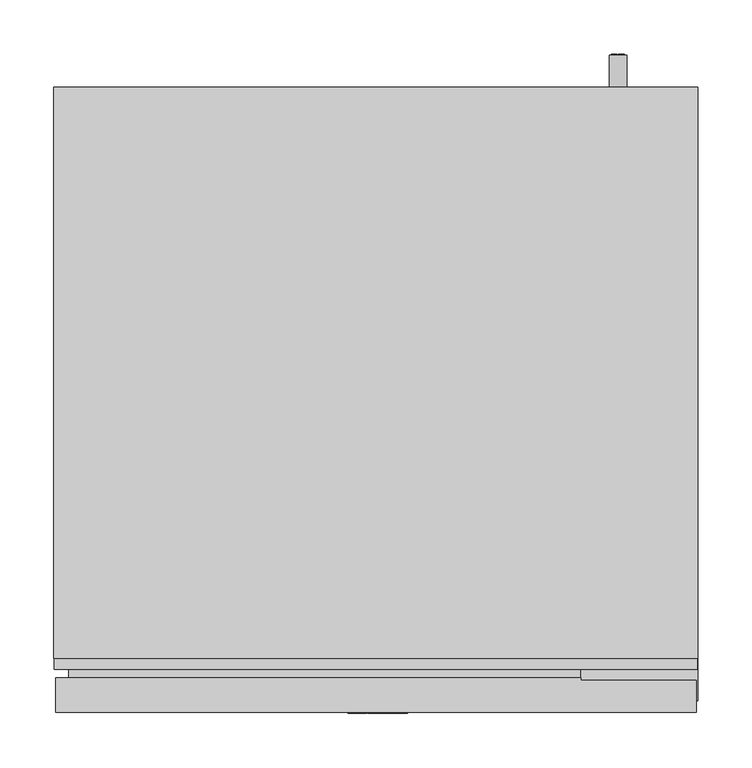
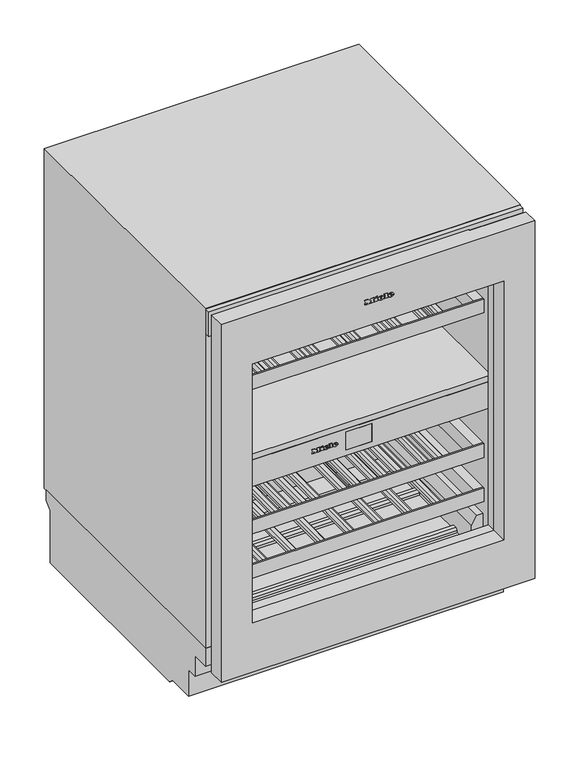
"""IFC4 building model written with IfcOpenShell, lengths in millimetres: proxy geometry, 12519560_EU1_KWTUS7096E_OBSW : 39709610_EU1_12519560_KWTUS7096E_OBSW."""

from ifc_helpers import new_model, si_unit, point, frame, frame_2d, origin, origin_with_axes, place, context, project, spatial, polyline, circle_curve, ellipse_curve, trimmed, segment, composite_curve, outline, extrude, faceted_brep, source, transform, mapped, element, save
from ifc_brep_helpers import plane_surface, cylinder_surface, revolved_surface, extruded_surface, advanced_brep


def specialty_equipment_0739b71f(model_context):
    return source(origin(), model_context, "Body", "SolidModel", [
        extrude(outline(polyline([(768.991, -25.542), (768.991, -24.453), (762.97, -24.453), (762.97, -25.542), (761.458, -25.542), (761.458, -21.582), (762.97, -21.582), (762.97, -22.662), (766.7921247, -22.662), (761.458, -18.639), (766.8982223, -14.598), (762.97, -14.598), (762.97, -15.705), (761.458, -15.705), (761.458, -8.523), (762.97, -8.523), (762.97, -9.666), (768.991, -9.666), (768.991, -8.523), (770.458, -8.523), (770.458, -14.004), (767.083, -16.632), (770.458, -19.269), (770.458, -25.542), (768.991, -25.542)])), frame((0.0, -1.0, 0.0), z_axis=(0.0, 1.0, 0.0), x_axis=(0.0, 0.0, 1.0)), (0.0, 0.0, 1.0), 1.0),
        extrude(outline(polyline([(768.991, 10.98), (768.991, 12.06), (762.97, 12.06), (762.97, 10.98), (761.458, 10.98), (761.458, 18.279), (762.97, 18.279), (762.97, 17.172), (770.458, 17.172), (770.458, 10.98), (768.991, 10.98)])), frame((0.0, -1.0, 0.0), z_axis=(0.0, 1.0, 0.0), x_axis=(0.0, 0.0, 1.0)), (0.0, 0.0, 1.0), 1.0),
        extrude(outline(polyline([(769.927, -5.382), (768.469, -4.698), (769.891, -1.647), (771.349, -2.322), (769.927, -5.382)])), frame((0.0, -1.0, 0.0), z_axis=(0.0, 1.0, 0.0), x_axis=(0.0, 0.0, 1.0)), (0.0, 0.0, 1.0), 1.0),
        extrude(outline(polyline([(768.271, -7.605), (766.66, -7.605), (766.66, -6.534), (762.97, -6.534), (762.97, -7.605), (761.458, -7.605), (761.458, -0.504), (762.97, -0.504), (762.97, -1.548), (768.271, -1.548), (768.271, -7.605)])), frame((0.0, -1.0, 0.0), z_axis=(0.0, 1.0, 0.0), x_axis=(0.0, 0.0, 1.0)), (0.0, 0.0, 1.0), 1.0),
        advanced_brep(
        [(4.455, -1.0, 763.591), (4.455, -1.0, 764.5), (10.476, -1.0, 764.5), (0.0, -1.0, 764.5), (2.475, -1.0, 761.458), (10.323, -1.0, 763.591), (7.605, -1.0, 763.591), (5.463, -1.0, 762.583), (4.455, -1.0, 765.652), (4.455, -1.0, 766.633), (5.994, -1.0, 766.633), (5.994, -1.0, 765.652), (4.455, 0.0, 763.591), (5.463, 0.0, 762.583), (7.605, 0.0, 763.591), (10.323, 0.0, 763.591), (2.475, 0.0, 761.458), (0.0, 0.0, 764.5), (10.476, 0.0, 764.5), (4.455, 0.0, 764.5), (4.455, 0.0, 765.652), (5.994, 0.0, 765.652), (5.994, 0.0, 766.633), (4.455, 0.0, 766.633)],
        [
            (0, 1),
            (1, 2),
            (2, 3, ellipse_curve(frame((5.238, -1.0, 764.5), z_axis=(0.0, -1.0, 0.0), x_axis=(-1.0, 0.0, 0.0)), 5.238, 4.329)),
            (3, 4, circle_curve(frame((3.4830491, -1.0, 764.806), z_axis=(0.0, -1.0, 0.0), x_axis=(0.0, 0.0, -1.0)), 3.4964649)),
            (4, 5, circle_curve(frame((5.1331428, -1.0, 767.182), z_axis=(0.0, -1.0, 0.0), x_axis=(0.0, 0.0, -1.0)), 6.3110933)),
            (5, 6),
            (6, 7, circle_curve(frame((5.9029412, -1.0, 764.428), z_axis=(0.0, 1.0, 0.0), x_axis=(0.0, 0.0, -1.0)), 1.896727)),
            (7, 0, circle_curve(frame((5.463, -1.0, 763.591), z_axis=(0.0, 1.0, 0.0), x_axis=(0.0, 0.0, -1.0)), 1.008)),
            (8, 9),
            (9, 10, circle_curve(frame((5.2245, -1.0, 766.633), z_axis=(0.0, 1.0, 0.0), x_axis=(0.0, 0.0, -1.0)), 0.7695)),
            (10, 11),
            (11, 8),
            (12, 13, circle_curve(frame((5.463, 0.0, 763.591), z_axis=(0.0, -1.0, 0.0), x_axis=(0.0, 0.0, -1.0)), 1.008)),
            (13, 14, circle_curve(frame((5.9029412, 0.0, 764.428), z_axis=(0.0, -1.0, 0.0), x_axis=(0.0, 0.0, -1.0)), 1.896727)),
            (14, 15),
            (15, 16, circle_curve(frame((5.1331428, 0.0, 767.182), z_axis=(0.0, 1.0, 0.0), x_axis=(0.0, 0.0, -1.0)), 6.3110933)),
            (16, 17, circle_curve(frame((3.4830491, 0.0, 764.806), z_axis=(0.0, 1.0, 0.0), x_axis=(0.0, 0.0, -1.0)), 3.4964649)),
            (17, 18, ellipse_curve(frame((5.238, 0.0, 764.5), z_axis=(0.0, 1.0, 0.0), x_axis=(-1.0, 0.0, 0.0)), 5.238, 4.329)),
            (18, 19),
            (19, 12),
            (20, 21),
            (21, 22),
            (22, 23, circle_curve(frame((5.2245, 0.0, 766.633), z_axis=(0.0, -1.0, 0.0), x_axis=(0.0, 0.0, -1.0)), 0.7695)),
            (23, 20),
            (0, 12),
            (19, 1),
            (18, 2),
            (5, 15),
            (14, 6),
            (17, 3),
            (13, 7),
            (16, 4),
            (8, 20),
            (23, 9),
            (22, 10),
            (21, 11),
        ],
        [
            plane_surface(frame((4.455, -1.0, 764.5), z_axis=(0.0, -1.0, 0.0), x_axis=(0.0, 0.0, 1.0))),
            plane_surface(frame((4.455, 0.0, 764.5), z_axis=(0.0, 1.0, 0.0), x_axis=(0.0, 0.0, -1.0))),
            plane_surface(frame((4.455, -1.0, 763.591), z_axis=(1.0, 0.0, 0.0), x_axis=(0.0, 1.0, 0.0))),
            plane_surface(frame((4.455, -1.0, 764.5), z_axis=(0.0, 0.0, -1.0), x_axis=(0.0, 1.0, 0.0))),
            plane_surface(frame((10.323, -1.0, 763.591), z_axis=(0.0, 0.0, 1.0), x_axis=(0.0, 1.0, 0.0))),
            extruded_surface(trimmed(ellipse_curve(frame((5.238, 1.0, 764.5), z_axis=(0.0, -1.0, 0.0), x_axis=(-1.0, 0.0, 0.0)), 5.238, 4.329), [point((10.476, 1.0, 764.5))], [point((0.0, 1.0, 764.5))], True, "CARTESIAN"), (0.0, -1.0, 0.0), 1.0),
            revolved_surface(polyline([(5.9029412, 0.0, 762.5312729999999), (5.9029412, -1.0, 762.5312729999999)]), (5.9029412, 0.0, 764.428), (0.0, 1.0, 0.0)),
            revolved_surface(polyline([(5.463, 0.0, 762.583), (5.463, -1.0, 762.583)]), (5.463, 0.0, 763.591), (0.0, 1.0, 0.0)),
            cylinder_surface(frame((3.4830491, 0.0, 764.806), z_axis=(0.0, -1.0, 0.0), x_axis=(0.0, 0.0, -1.0)), 3.4964649),
            cylinder_surface(frame((5.1331428, 0.0, 767.182), z_axis=(0.0, -1.0, 0.0), x_axis=(0.0, 0.0, -1.0)), 6.3110933),
            plane_surface(frame((4.455, -1.0, 765.652), z_axis=(1.0, 0.0, 0.0), x_axis=(0.0, 1.0, 0.0))),
            revolved_surface(polyline([(5.2245, 0.0, 765.8635), (5.2245, -1.0, 765.8635)]), (5.2245, 0.0, 766.633), (0.0, 1.0, 0.0)),
            plane_surface(frame((5.994, -1.0, 766.633), z_axis=(-1.0, 0.0, 0.0), x_axis=(0.0, 1.0, 0.0))),
            plane_surface(frame((5.994, -1.0, 765.652), z_axis=(0.0, 0.0, 1.0), x_axis=(0.0, 1.0, 0.0))),
        ],
        [
            (0, [[1, 2, 3, 4, 5, 6, 7, 8], [9, 10, 11, 12]]),
            (1, [[13, 14, 15, 16, 17, 18, 19, 20], [21, 22, 23, 24]]),
            (2, [[-1, 25, -20, 26]]),
            (3, [[-2, -26, -19, 27]]),
            (4, [[-6, 28, -15, 29]]),
            (5, [[-3, -27, -18, 30]]),
            (6, [[-7, -29, -14, 31]]),
            (7, [[-8, -31, -13, -25]]),
            (8, [[-4, -30, -17, 32]]),
            (9, [[-5, -32, -16, -28]]),
            (10, [[-9, 33, -24, 34]]),
            (11, [[-10, -34, -23, 35]]),
            (12, [[-11, -35, -22, 36]]),
            (13, [[-12, -36, -21, -33]]),
        ],
    ),
        advanced_brep(
        [(23.238, -1.0, 763.591), (23.238, -1.0, 764.5), (29.259, -1.0, 764.5), (18.783, -1.0, 764.5), (21.258, -1.0, 761.458), (29.106, -1.0, 763.591), (26.388, -1.0, 763.591), (24.246, -1.0, 762.583), (23.238, -1.0, 765.652), (23.238, -1.0, 766.633), (24.777, -1.0, 766.633), (24.777, -1.0, 765.652), (23.238, 0.0, 763.591), (24.246, 0.0, 762.583), (26.388, 0.0, 763.591), (29.106, 0.0, 763.591), (21.258, 0.0, 761.458), (18.783, 0.0, 764.5), (29.259, 0.0, 764.5), (23.238, 0.0, 764.5), (23.238, 0.0, 765.652), (24.777, 0.0, 765.652), (24.777, 0.0, 766.633), (23.238, 0.0, 766.633)],
        [
            (0, 1),
            (1, 2),
            (2, 3, ellipse_curve(frame((24.021, -1.0, 764.5), z_axis=(0.0, -1.0, 0.0), x_axis=(-1.0, 0.0, 0.0)), 5.238, 4.329)),
            (3, 4, circle_curve(frame((22.2660491, -1.0, 764.806), z_axis=(0.0, -1.0, 0.0), x_axis=(0.0, 0.0, -1.0)), 3.4964649)),
            (4, 5, circle_curve(frame((23.9161428, -1.0, 767.182), z_axis=(0.0, -1.0, 0.0), x_axis=(0.0, 0.0, -1.0)), 6.3110933)),
            (5, 6),
            (6, 7, circle_curve(frame((24.6859412, -1.0, 764.428), z_axis=(0.0, 1.0, 0.0), x_axis=(0.0, 0.0, -1.0)), 1.896727)),
            (7, 0, circle_curve(frame((24.246, -1.0, 763.591), z_axis=(0.0, 1.0, 0.0), x_axis=(0.0, 0.0, -1.0)), 1.008)),
            (8, 9),
            (9, 10, circle_curve(frame((24.0075, -1.0, 766.633), z_axis=(0.0, 1.0, 0.0), x_axis=(0.0, 0.0, -1.0)), 0.7695)),
            (10, 11),
            (11, 8),
            (12, 13, circle_curve(frame((24.246, 0.0, 763.591), z_axis=(0.0, -1.0, 0.0), x_axis=(0.0, 0.0, -1.0)), 1.008)),
            (13, 14, circle_curve(frame((24.6859412, 0.0, 764.428), z_axis=(0.0, -1.0, 0.0), x_axis=(0.0, 0.0, -1.0)), 1.896727)),
            (14, 15),
            (15, 16, circle_curve(frame((23.9161428, 0.0, 767.182), z_axis=(0.0, 1.0, 0.0), x_axis=(0.0, 0.0, -1.0)), 6.3110933)),
            (16, 17, circle_curve(frame((22.2660491, 0.0, 764.806), z_axis=(0.0, 1.0, 0.0), x_axis=(0.0, 0.0, -1.0)), 3.4964649)),
            (17, 18, ellipse_curve(frame((24.021, 0.0, 764.5), z_axis=(0.0, 1.0, 0.0), x_axis=(-1.0, 0.0, 0.0)), 5.238, 4.329)),
            (18, 19),
            (19, 12),
            (20, 21),
            (21, 22),
            (22, 23, circle_curve(frame((24.0075, 0.0, 766.633), z_axis=(0.0, -1.0, 0.0), x_axis=(0.0, 0.0, -1.0)), 0.7695)),
            (23, 20),
            (0, 12),
            (19, 1),
            (18, 2),
            (5, 15),
            (14, 6),
            (17, 3),
            (13, 7),
            (16, 4),
            (8, 20),
            (23, 9),
            (22, 10),
            (21, 11),
        ],
        [
            plane_surface(frame((23.238, -1.0, 764.5), z_axis=(0.0, -1.0, 0.0), x_axis=(0.0, 0.0, 1.0))),
            plane_surface(frame((23.238, 0.0, 764.5), z_axis=(0.0, 1.0, 0.0), x_axis=(0.0, 0.0, -1.0))),
            plane_surface(frame((23.238, -1.0, 763.591), z_axis=(1.0, 0.0, 0.0), x_axis=(0.0, 1.0, 0.0))),
            plane_surface(frame((23.238, -1.0, 764.5), z_axis=(0.0, 0.0, -1.0), x_axis=(0.0, 1.0, 0.0))),
            plane_surface(frame((29.106, -1.0, 763.591), z_axis=(0.0, 0.0, 1.0), x_axis=(0.0, 1.0, 0.0))),
            extruded_surface(trimmed(ellipse_curve(frame((24.021, 1.0, 764.5), z_axis=(0.0, -1.0, 0.0), x_axis=(-1.0, 0.0, 0.0)), 5.238, 4.329), [point((29.259, 1.0, 764.5))], [point((18.783, 1.0, 764.5))], True, "CARTESIAN"), (0.0, -1.0, 0.0), 1.0),
            revolved_surface(polyline([(24.6859412, 0.0, 762.5312729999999), (24.6859412, -1.0, 762.5312729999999)]), (24.6859412, 0.0, 764.428), (0.0, 1.0, 0.0)),
            revolved_surface(polyline([(24.246, 0.0, 762.583), (24.246, -1.0, 762.583)]), (24.246, 0.0, 763.591), (0.0, 1.0, 0.0)),
            cylinder_surface(frame((22.2660491, 0.0, 764.806), z_axis=(0.0, -1.0, 0.0), x_axis=(0.0, 0.0, -1.0)), 3.4964649),
            cylinder_surface(frame((23.9161428, 0.0, 767.182), z_axis=(0.0, -1.0, 0.0), x_axis=(0.0, 0.0, -1.0)), 6.3110933),
            plane_surface(frame((23.238, -1.0, 765.652), z_axis=(1.0, 0.0, 0.0), x_axis=(0.0, 1.0, 0.0))),
            revolved_surface(polyline([(24.0075, 0.0, 765.8635), (24.0075, -1.0, 765.8635)]), (24.0075, 0.0, 766.633), (0.0, 1.0, 0.0)),
            plane_surface(frame((24.777, -1.0, 766.633), z_axis=(-1.0, 0.0, 0.0), x_axis=(0.0, 1.0, 0.0))),
            plane_surface(frame((24.777, -1.0, 765.652), z_axis=(0.0, 0.0, 1.0), x_axis=(0.0, 1.0, 0.0))),
        ],
        [
            (0, [[1, 2, 3, 4, 5, 6, 7, 8], [9, 10, 11, 12]]),
            (1, [[13, 14, 15, 16, 17, 18, 19, 20], [21, 22, 23, 24]]),
            (2, [[-1, 25, -20, 26]]),
            (3, [[-2, -26, -19, 27]]),
            (4, [[-6, 28, -15, 29]]),
            (5, [[-3, -27, -18, 30]]),
            (6, [[-7, -29, -14, 31]]),
            (7, [[-8, -31, -13, -25]]),
            (8, [[-4, -30, -17, 32]]),
            (9, [[-5, -32, -16, -28]]),
            (10, [[-9, 33, -24, 34]]),
            (11, [[-10, -34, -23, 35]]),
            (12, [[-11, -35, -22, 36]]),
            (13, [[-12, -36, -21, -33]]),
        ],
    ),
        extrude(outline(polyline([(454.1556157, -89.367984), (454.1556157, -88.399984), (448.8036157, -88.399984), (448.8036157, -89.367984), (447.4596157, -89.367984), (447.4596157, -85.847984), (448.8036157, -85.847984), (448.8036157, -86.807984), (452.2067404, -86.807984), (447.4596157, -83.231984), (452.274838, -79.639984), (448.8036157, -79.639984), (448.8036157, -80.623984), (447.4596157, -80.623984), (447.4596157, -74.239984), (448.8036157, -74.239984), (448.8036157, -75.255984), (454.1556157, -75.255984), (454.1556157, -74.239984), (455.4596157, -74.239984), (455.4596157, -79.111984), (452.4596157, -81.447984), (455.4596157, -83.791984), (455.4596157, -89.367984), (454.1556157, -89.367984)])), frame((0.0, 62.0, 0.0), z_axis=(0.0, 1.0, 0.0), x_axis=(0.0, 0.0, 1.0)), (0.0, 0.0, 1.0), 1.0),
        extrude(outline(polyline([(454.1556157, -56.903984), (454.1556157, -55.943984), (448.8036157, -55.943984), (448.8036157, -56.903984), (447.4596157, -56.903984), (447.4596157, -50.415984), (448.8036157, -50.415984), (448.8036157, -51.399984), (455.4596157, -51.399984), (455.4596157, -56.903984), (454.1556157, -56.903984)])), frame((0.0, 62.0, 0.0), z_axis=(0.0, 1.0, 0.0), x_axis=(0.0, 0.0, 1.0)), (0.0, 0.0, 1.0), 1.0),
        extrude(outline(polyline([(454.9876157, -71.447984), (453.6916157, -70.839984), (454.9556157, -68.127984), (456.2516157, -68.727984), (454.9876157, -71.447984)])), frame((0.0, 62.0, 0.0), z_axis=(0.0, 1.0, 0.0), x_axis=(0.0, 0.0, 1.0)), (0.0, 0.0, 1.0), 1.0),
        extrude(outline(polyline([(453.5156157, -73.423984), (452.0836157, -73.423984), (452.0836157, -72.471984), (448.8036157, -72.471984), (448.8036157, -73.423984), (447.4596157, -73.423984), (447.4596157, -67.111984), (448.8036157, -67.111984), (448.8036157, -68.039984), (453.5156157, -68.039984), (453.5156157, -73.423984)])), frame((0.0, 62.0, 0.0), z_axis=(0.0, 1.0, 0.0), x_axis=(0.0, 0.0, 1.0)), (0.0, 0.0, 1.0), 1.0),
        advanced_brep(
        [(-62.703984, 62.0, 449.3556157), (-62.703984, 62.0, 450.1636157), (-57.351984, 62.0, 450.1636157), (-66.663984, 62.0, 450.1636157), (-64.463984, 62.0, 447.4596157), (-57.487984, 62.0, 449.3556157), (-59.903984, 62.0, 449.3556157), (-61.807984, 62.0, 448.4596157), (-62.703984, 62.0, 451.1876157), (-62.703984, 62.0, 452.0596157), (-61.335984, 62.0, 452.0596157), (-61.335984, 62.0, 451.1876157), (-62.703984, 63.0, 449.3556157), (-61.807984, 63.0, 448.4596157), (-59.903984, 63.0, 449.3556157), (-57.487984, 63.0, 449.3556157), (-64.463984, 63.0, 447.4596157), (-66.663984, 63.0, 450.1636157), (-57.351984, 63.0, 450.1636157), (-62.703984, 63.0, 450.1636157), (-62.703984, 63.0, 451.1876157), (-61.335984, 63.0, 451.1876157), (-61.335984, 63.0, 452.0596157), (-62.703984, 63.0, 452.0596157)],
        [
            (0, 1),
            (1, 2),
            (2, 3, ellipse_curve(frame((-62.007984, 62.0, 450.1636157), z_axis=(0.0, -1.0, 0.0), x_axis=(-1.0, 0.0, 0.0)), 4.656, 3.848)),
            (3, 4, circle_curve(frame((-63.5679404, 62.0, 450.4356157), z_axis=(0.0, -1.0, 0.0), x_axis=(0.0, 0.0, -1.0)), 3.1079688)),
            (4, 5, circle_curve(frame((-62.1011904, 62.0, 452.5476157), z_axis=(0.0, -1.0, 0.0), x_axis=(0.0, 0.0, -1.0)), 5.6098607)),
            (5, 6),
            (6, 7, circle_curve(frame((-61.4169252, 62.0, 450.0996157), z_axis=(0.0, 1.0, 0.0), x_axis=(0.0, 0.0, -1.0)), 1.6859795)),
            (7, 0, circle_curve(frame((-61.807984, 62.0, 449.3556157), z_axis=(0.0, 1.0, 0.0), x_axis=(0.0, 0.0, -1.0)), 0.896)),
            (8, 9),
            (9, 10, circle_curve(frame((-62.019984, 62.0, 452.0596157), z_axis=(0.0, 1.0, 0.0), x_axis=(0.0, 0.0, -1.0)), 0.684)),
            (10, 11),
            (11, 8),
            (12, 13, circle_curve(frame((-61.807984, 63.0, 449.3556157), z_axis=(0.0, -1.0, 0.0), x_axis=(0.0, 0.0, -1.0)), 0.896)),
            (13, 14, circle_curve(frame((-61.4169252, 63.0, 450.0996157), z_axis=(0.0, -1.0, 0.0), x_axis=(0.0, 0.0, -1.0)), 1.6859795)),
            (14, 15),
            (15, 16, circle_curve(frame((-62.1011904, 63.0, 452.5476157), z_axis=(0.0, 1.0, 0.0), x_axis=(0.0, 0.0, -1.0)), 5.6098607)),
            (16, 17, circle_curve(frame((-63.5679404, 63.0, 450.4356157), z_axis=(0.0, 1.0, 0.0), x_axis=(0.0, 0.0, -1.0)), 3.1079688)),
            (17, 18, ellipse_curve(frame((-62.007984, 63.0, 450.1636157), z_axis=(0.0, 1.0, 0.0), x_axis=(-1.0, 0.0, 0.0)), 4.656, 3.848)),
            (18, 19),
            (19, 12),
            (20, 21),
            (21, 22),
            (22, 23, circle_curve(frame((-62.019984, 63.0, 452.0596157), z_axis=(0.0, -1.0, 0.0), x_axis=(0.0, 0.0, -1.0)), 0.684)),
            (23, 20),
            (0, 12),
            (19, 1),
            (18, 2),
            (5, 15),
            (14, 6),
            (17, 3),
            (13, 7),
            (16, 4),
            (8, 20),
            (23, 9),
            (22, 10),
            (21, 11),
        ],
        [
            plane_surface(frame((-62.703984, 62.0, 450.1636157), z_axis=(0.0, -1.0, 0.0), x_axis=(0.0, 0.0, 1.0))),
            plane_surface(frame((-62.703984, 63.0, 450.1636157), z_axis=(0.0, 1.0, 0.0), x_axis=(0.0, 0.0, -1.0))),
            plane_surface(frame((-62.703984, 62.0, 449.3556157), z_axis=(1.0, 0.0, 0.0), x_axis=(0.0, 1.0, 0.0))),
            plane_surface(frame((-62.703984, 62.0, 450.1636157), z_axis=(0.0, 0.0, -1.0), x_axis=(0.0, 1.0, 0.0))),
            plane_surface(frame((-57.487984, 62.0, 449.3556157), z_axis=(0.0, 0.0, 1.0), x_axis=(0.0, 1.0, 0.0))),
            extruded_surface(trimmed(ellipse_curve(frame((-62.007984, 64.0, 450.1636157), z_axis=(0.0, -1.0, 0.0), x_axis=(-1.0, 0.0, 0.0)), 4.656, 3.848), [point((-57.351984, 64.0, 450.1636157))], [point((-66.663984, 64.0, 450.1636157))], True, "CARTESIAN"), (0.0, -1.0, 0.0), 1.0),
            revolved_surface(polyline([(-61.4169252, 63.0, 448.41363620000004), (-61.4169252, 62.0, 448.41363620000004)]), (-61.4169252, 63.0, 450.0996157), (0.0, 1.0, 0.0)),
            revolved_surface(polyline([(-61.807984, 63.0, 448.4596157), (-61.807984, 62.0, 448.4596157)]), (-61.807984, 63.0, 449.3556157), (0.0, 1.0, 0.0)),
            cylinder_surface(frame((-63.5679404, 63.0, 450.4356157), z_axis=(0.0, -1.0, 0.0), x_axis=(0.0, 0.0, -1.0)), 3.1079688),
            cylinder_surface(frame((-62.1011904, 63.0, 452.5476157), z_axis=(0.0, -1.0, 0.0), x_axis=(0.0, 0.0, -1.0)), 5.6098607),
            plane_surface(frame((-62.703984, 62.0, 451.1876157), z_axis=(1.0, 0.0, 0.0), x_axis=(0.0, 1.0, 0.0))),
            revolved_surface(polyline([(-62.019984, 63.0, 451.37561569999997), (-62.019984, 62.0, 451.37561569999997)]), (-62.019984, 63.0, 452.0596157), (0.0, 1.0, 0.0)),
            plane_surface(frame((-61.335984, 62.0, 452.0596157), z_axis=(-1.0, 0.0, 0.0), x_axis=(0.0, 1.0, 0.0))),
            plane_surface(frame((-61.335984, 62.0, 451.1876157), z_axis=(0.0, 0.0, 1.0), x_axis=(0.0, 1.0, 0.0))),
        ],
        [
            (0, [[1, 2, 3, 4, 5, 6, 7, 8], [9, 10, 11, 12]]),
            (1, [[13, 14, 15, 16, 17, 18, 19, 20], [21, 22, 23, 24]]),
            (2, [[-1, 25, -20, 26]]),
            (3, [[-2, -26, -19, 27]]),
            (4, [[-6, 28, -15, 29]]),
            (5, [[-3, -27, -18, 30]]),
            (6, [[-7, -29, -14, 31]]),
            (7, [[-8, -31, -13, -25]]),
            (8, [[-4, -30, -17, 32]]),
            (9, [[-5, -32, -16, -28]]),
            (10, [[-9, 33, -24, 34]]),
            (11, [[-10, -34, -23, 35]]),
            (12, [[-11, -35, -22, 36]]),
            (13, [[-12, -36, -21, -33]]),
        ],
    ),
        advanced_brep(
        [(-46.007984, 62.0, 449.3556157), (-46.007984, 62.0, 450.1636157), (-40.655984, 62.0, 450.1636157), (-49.967984, 62.0, 450.1636157), (-47.767984, 62.0, 447.4596157), (-40.791984, 62.0, 449.3556157), (-43.207984, 62.0, 449.3556157), (-45.111984, 62.0, 448.4596157), (-46.007984, 62.0, 451.1876157), (-46.007984, 62.0, 452.0596157), (-44.639984, 62.0, 452.0596157), (-44.639984, 62.0, 451.1876157), (-46.007984, 63.0, 449.3556157), (-45.111984, 63.0, 448.4596157), (-43.207984, 63.0, 449.3556157), (-40.791984, 63.0, 449.3556157), (-47.767984, 63.0, 447.4596157), (-49.967984, 63.0, 450.1636157), (-40.655984, 63.0, 450.1636157), (-46.007984, 63.0, 450.1636157), (-46.007984, 63.0, 451.1876157), (-44.639984, 63.0, 451.1876157), (-44.639984, 63.0, 452.0596157), (-46.007984, 63.0, 452.0596157)],
        [
            (0, 1),
            (1, 2),
            (2, 3, ellipse_curve(frame((-45.311984, 62.0, 450.1636157), z_axis=(0.0, -1.0, 0.0), x_axis=(-1.0, 0.0, 0.0)), 4.656, 3.848)),
            (3, 4, circle_curve(frame((-46.8719404, 62.0, 450.4356157), z_axis=(0.0, -1.0, 0.0), x_axis=(0.0, 0.0, -1.0)), 3.1079688)),
            (4, 5, circle_curve(frame((-45.4051904, 62.0, 452.5476157), z_axis=(0.0, -1.0, 0.0), x_axis=(0.0, 0.0, -1.0)), 5.6098607)),
            (5, 6),
            (6, 7, circle_curve(frame((-44.7209252, 62.0, 450.0996157), z_axis=(0.0, 1.0, 0.0), x_axis=(0.0, 0.0, -1.0)), 1.6859795)),
            (7, 0, circle_curve(frame((-45.111984, 62.0, 449.3556157), z_axis=(0.0, 1.0, 0.0), x_axis=(0.0, 0.0, -1.0)), 0.896)),
            (8, 9),
            (9, 10, circle_curve(frame((-45.323984, 62.0, 452.0596157), z_axis=(0.0, 1.0, 0.0), x_axis=(0.0, 0.0, -1.0)), 0.684)),
            (10, 11),
            (11, 8),
            (12, 13, circle_curve(frame((-45.111984, 63.0, 449.3556157), z_axis=(0.0, -1.0, 0.0), x_axis=(0.0, 0.0, -1.0)), 0.896)),
            (13, 14, circle_curve(frame((-44.7209252, 63.0, 450.0996157), z_axis=(0.0, -1.0, 0.0), x_axis=(0.0, 0.0, -1.0)), 1.6859795)),
            (14, 15),
            (15, 16, circle_curve(frame((-45.4051904, 63.0, 452.5476157), z_axis=(0.0, 1.0, 0.0), x_axis=(0.0, 0.0, -1.0)), 5.6098607)),
            (16, 17, circle_curve(frame((-46.8719404, 63.0, 450.4356157), z_axis=(0.0, 1.0, 0.0), x_axis=(0.0, 0.0, -1.0)), 3.1079688)),
            (17, 18, ellipse_curve(frame((-45.311984, 63.0, 450.1636157), z_axis=(0.0, 1.0, 0.0), x_axis=(-1.0, 0.0, 0.0)), 4.656, 3.848)),
            (18, 19),
            (19, 12),
            (20, 21),
            (21, 22),
            (22, 23, circle_curve(frame((-45.323984, 63.0, 452.0596157), z_axis=(0.0, -1.0, 0.0), x_axis=(0.0, 0.0, -1.0)), 0.684)),
            (23, 20),
            (0, 12),
            (19, 1),
            (18, 2),
            (5, 15),
            (14, 6),
            (17, 3),
            (13, 7),
            (16, 4),
            (8, 20),
            (23, 9),
            (22, 10),
            (21, 11),
        ],
        [
            plane_surface(frame((-46.007984, 62.0, 450.1636157), z_axis=(0.0, -1.0, 0.0), x_axis=(0.0, 0.0, 1.0))),
            plane_surface(frame((-46.007984, 63.0, 450.1636157), z_axis=(0.0, 1.0, 0.0), x_axis=(0.0, 0.0, -1.0))),
            plane_surface(frame((-46.007984, 62.0, 449.3556157), z_axis=(1.0, 0.0, 0.0), x_axis=(0.0, 1.0, 0.0))),
            plane_surface(frame((-46.007984, 62.0, 450.1636157), z_axis=(0.0, 0.0, -1.0), x_axis=(0.0, 1.0, 0.0))),
            plane_surface(frame((-40.791984, 62.0, 449.3556157), z_axis=(0.0, 0.0, 1.0), x_axis=(0.0, 1.0, 0.0))),
            extruded_surface(trimmed(ellipse_curve(frame((-45.311984, 64.0, 450.1636157), z_axis=(0.0, -1.0, 0.0), x_axis=(-1.0, 0.0, 0.0)), 4.656, 3.848), [point((-40.655984, 64.0, 450.1636157))], [point((-49.967984, 64.0, 450.1636157))], True, "CARTESIAN"), (0.0, -1.0, 0.0), 1.0),
            revolved_surface(polyline([(-44.7209252, 63.0, 448.41363620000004), (-44.7209252, 62.0, 448.41363620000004)]), (-44.7209252, 63.0, 450.0996157), (0.0, 1.0, 0.0)),
            revolved_surface(polyline([(-45.111984, 63.0, 448.4596157), (-45.111984, 62.0, 448.4596157)]), (-45.111984, 63.0, 449.3556157), (0.0, 1.0, 0.0)),
            cylinder_surface(frame((-46.8719404, 63.0, 450.4356157), z_axis=(0.0, -1.0, 0.0), x_axis=(0.0, 0.0, -1.0)), 3.1079688),
            cylinder_surface(frame((-45.4051904, 63.0, 452.5476157), z_axis=(0.0, -1.0, 0.0), x_axis=(0.0, 0.0, -1.0)), 5.6098607),
            plane_surface(frame((-46.007984, 62.0, 451.1876157), z_axis=(1.0, 0.0, 0.0), x_axis=(0.0, 1.0, 0.0))),
            revolved_surface(polyline([(-45.323984, 63.0, 451.37561569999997), (-45.323984, 62.0, 451.37561569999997)]), (-45.323984, 63.0, 452.0596157), (0.0, 1.0, 0.0)),
            plane_surface(frame((-44.639984, 62.0, 452.0596157), z_axis=(-1.0, 0.0, 0.0), x_axis=(0.0, 1.0, 0.0))),
            plane_surface(frame((-44.639984, 62.0, 451.1876157), z_axis=(0.0, 0.0, 1.0), x_axis=(0.0, 1.0, 0.0))),
        ],
        [
            (0, [[1, 2, 3, 4, 5, 6, 7, 8], [9, 10, 11, 12]]),
            (1, [[13, 14, 15, 16, 17, 18, 19, 20], [21, 22, 23, 24]]),
            (2, [[-1, 25, -20, 26]]),
            (3, [[-2, -26, -19, 27]]),
            (4, [[-6, 28, -15, 29]]),
            (5, [[-3, -27, -18, 30]]),
            (6, [[-7, -29, -14, 31]]),
            (7, [[-8, -31, -13, -25]]),
            (8, [[-4, -30, -17, 32]]),
            (9, [[-5, -32, -16, -28]]),
            (10, [[-9, 33, -24, 34]]),
            (11, [[-10, -34, -23, 35]]),
            (12, [[-11, -35, -22, 36]]),
            (13, [[-12, -36, -21, -33]]),
        ],
    ),
        extrude(outline(polyline([(238.8, -157.5), (243.5052612, -157.5), (247.5052612, -161.5), (247.5052612, -168.5), (243.5052612, -172.5), (238.8, -172.5), (238.8, -157.5)])), frame((0.0, 68.5000244, 0.0), z_axis=(0.0, 1.0, 0.0), x_axis=(0.0, 0.0, 1.0)), (0.0, 0.0, 1.0), 419.111792),
        extrude(outline(polyline([(238.8, -102.5), (243.5052612, -102.5), (247.5052612, -106.5), (247.5052612, -113.5), (243.5052612, -117.5), (238.8, -117.5), (238.8, -102.5)])), frame((0.0, 68.5000244, 0.0), z_axis=(0.0, 1.0, 0.0), x_axis=(0.0, 0.0, 1.0)), (0.0, 0.0, 1.0), 419.111792),
        extrude(outline(polyline([(238.8, 157.5), (238.8, 172.5), (243.5052612, 172.5), (247.5052612, 168.5), (247.5052612, 161.5), (243.5052612, 157.5), (238.8, 157.5)])), frame((0.0, 68.5000244, 0.0), z_axis=(0.0, 1.0, 0.0), x_axis=(0.0, 0.0, 1.0)), (0.0, 0.0, 1.0), 419.111792),
        extrude(outline(polyline([(238.8, 102.5), (238.8, 117.5), (243.5052612, 117.5), (247.5052612, 113.5), (247.5052612, 106.5), (243.5052612, 102.5), (238.8, 102.5)])), frame((0.0, 68.5000244, 0.0), z_axis=(0.0, 1.0, 0.0), x_axis=(0.0, 0.0, 1.0)), (0.0, 0.0, 1.0), 419.111792),
        extrude(outline(polyline([(238.8, -47.5), (243.5052612, -47.5), (247.5052612, -51.5), (247.5052612, -58.5), (243.5052612, -62.5), (238.8, -62.5), (238.8, -47.5)])), frame((0.0, 68.5000244, 0.0), z_axis=(0.0, 1.0, 0.0), x_axis=(0.0, 0.0, 1.0)), (0.0, 0.0, 1.0), 419.111792),
        extrude(outline(polyline([(238.8, 47.5), (238.8, 62.5), (243.5052612, 62.5), (247.5052612, 58.5), (247.5052612, 51.5), (243.5052612, 47.5), (238.8, 47.5)])), frame((0.0, 68.5000244, 0.0), z_axis=(0.0, 1.0, 0.0), x_axis=(0.0, 0.0, 1.0)), (0.0, 0.0, 1.0), 419.111792),
        extrude(outline(polyline([(238.8, 7.5), (243.5052612, 7.5), (247.5052612, 3.5), (247.5052612, -3.5), (243.5052612, -7.5), (238.8, -7.5), (238.8, 7.5)])), frame((0.0, 68.5000244, 0.0), z_axis=(0.0, 1.0, 0.0), x_axis=(0.0, 0.0, 1.0)), (0.0, 0.0, 1.0), 419.111792),
        extrude(outline(polyline([(238.5, 65.0000244), (-238.5, 65.0000244), (-238.5, 68.5000244), (238.5, 68.5000244), (238.5, 65.0000244)])), frame((0.0, 0.0, 146.0), z_axis=(0.0, 0.0, 1.0), x_axis=(1.0, 0.0, 0.0)), (0.0, 0.0, 1.0), 27.5),
        extrude(outline(polyline([(209.0, -226.9226475), (209.0, -238.5), (141.0206134, -238.5), (141.0206134, -216.8069153), (191.4790485, -216.8069153), (209.0, -226.9226475)])), frame((0.0, 68.5000244, 0.0), z_axis=(0.0, 1.0, 0.0), x_axis=(0.0, 0.0, 1.0)), (0.0, 0.0, 1.0), 294.1981801),
        extrude(outline(polyline([(209.0, 226.9226475), (191.4790485, 216.8069153), (141.0206134, 216.8069153), (141.0206134, 238.5), (209.0, 238.5), (209.0, 226.9226475)])), frame((0.0, 68.5000244, 0.0), z_axis=(0.0, 1.0, 0.0), x_axis=(0.0, 0.0, 1.0)), (0.0, 0.0, 1.0), 294.1981801),
        extrude(outline(polyline([(238.5, 65.0000244), (-238.5, 65.0000244), (-238.5, 68.5000244), (238.5, 68.5000244), (238.5, 65.0000244)])), frame((0.0, 0.0, 324.0), z_axis=(0.0, 0.0, 1.0), x_axis=(1.0, 0.0, 0.0)), (0.0, 0.0, 1.0), 27.5),
        extrude(outline(polyline([(618.2947388, -160.4764937), (623.0, -160.4764937), (627.0, -164.4764937), (627.0, -171.4764937), (623.0, -175.4764937), (618.2947388, -175.4764937), (618.2947388, -160.4764937)])), frame((0.0, 68.5000244, 0.0), z_axis=(0.0, 1.0, 0.0), x_axis=(0.0, 0.0, 1.0)), (0.0, 0.0, 1.0), 419.111792),
        extrude(outline(polyline([(618.2947388, -134.5453754), (623.0, -134.5453754), (627.0, -138.5453754), (627.0, -145.5453754), (623.0, -149.5453754), (618.2947388, -149.5453754), (618.2947388, -134.5453754)])), frame((0.0, 68.5000244, 0.0), z_axis=(0.0, 1.0, 0.0), x_axis=(0.0, 0.0, 1.0)), (0.0, 0.0, 1.0), 419.111792),
        extrude(outline(polyline([(618.2947388, -82.9166641), (623.0, -82.9166641), (627.0, -86.9166641), (627.0, -93.9166641), (623.0, -97.9166641), (618.2947388, -97.9166641), (618.2947388, -82.9166641)])), frame((0.0, 68.5000244, 0.0), z_axis=(0.0, 1.0, 0.0), x_axis=(0.0, 0.0, 1.0)), (0.0, 0.0, 1.0), 419.111792),
        extrude(outline(polyline([(618.2947388, -56.9855458), (623.0, -56.9855458), (627.0, -60.9855458), (627.0, -67.9855458), (623.0, -71.9855458), (618.2947388, -71.9855458), (618.2947388, -56.9855458)])), frame((0.0, 68.5000244, 0.0), z_axis=(0.0, 1.0, 0.0), x_axis=(0.0, 0.0, 1.0)), (0.0, 0.0, 1.0), 419.111792),
        extrude(outline(polyline([(618.2947388, 160.4764937), (618.2947388, 175.4764937), (623.0, 175.4764937), (627.0, 171.4764937), (627.0, 164.4764937), (623.0, 160.4764937), (618.2947388, 160.4764937)])), frame((0.0, 68.5000244, 0.0), z_axis=(0.0, 1.0, 0.0), x_axis=(0.0, 0.0, 1.0)), (0.0, 0.0, 1.0), 419.111792),
        extrude(outline(polyline([(618.2947388, 134.5453754), (618.2947388, 149.5453754), (623.0, 149.5453754), (627.0, 145.5453754), (627.0, 138.5453754), (623.0, 134.5453754), (618.2947388, 134.5453754)])), frame((0.0, 68.5000244, 0.0), z_axis=(0.0, 1.0, 0.0), x_axis=(0.0, 0.0, 1.0)), (0.0, 0.0, 1.0), 419.111792),
        extrude(outline(polyline([(618.2947388, 82.9166641), (618.2947388, 97.9166641), (623.0, 97.9166641), (627.0, 93.9166641), (627.0, 86.9166641), (623.0, 82.9166641), (618.2947388, 82.9166641)])), frame((0.0, 68.5000244, 0.0), z_axis=(0.0, 1.0, 0.0), x_axis=(0.0, 0.0, 1.0)), (0.0, 0.0, 1.0), 419.111792),
        extrude(outline(polyline([(618.2947388, 56.9855458), (618.2947388, 71.9855458), (623.0, 71.9855458), (627.0, 67.9855458), (627.0, 60.9855458), (623.0, 56.9855458), (618.2947388, 56.9855458)])), frame((0.0, 68.5000244, 0.0), z_axis=(0.0, 1.0, 0.0), x_axis=(0.0, 0.0, 1.0)), (0.0, 0.0, 1.0), 419.111792),
        extrude(outline(polyline([(618.2947388, -5.416666), (623.0, -5.416666), (627.0, -9.416666), (627.0, -16.416666), (623.0, -20.416666), (618.2947388, -20.416666), (618.2947388, -5.416666)])), frame((0.0, 68.5000244, 0.0), z_axis=(0.0, 1.0, 0.0), x_axis=(0.0, 0.0, 1.0)), (0.0, 0.0, 1.0), 419.111792),
        extrude(outline(polyline([(618.2947388, 20.5144523), (623.0, 20.5144523), (627.0, 16.5144523), (627.0, 9.5144523), (623.0, 5.5144523), (618.2947388, 5.5144523), (618.2947388, 20.5144523)])), frame((0.0, 68.5000244, 0.0), z_axis=(0.0, 1.0, 0.0), x_axis=(0.0, 0.0, 1.0)), (0.0, 0.0, 1.0), 419.111792),
        extrude(outline(polyline([(328.2947388, -160.4166718), (333.0, -160.4166718), (337.0, -164.4166718), (337.0, -171.4166718), (333.0, -175.4166718), (328.2947388, -175.4166718), (328.2947388, -160.4166718)])), frame((0.0, 68.5000244, 0.0), z_axis=(0.0, 1.0, 0.0), x_axis=(0.0, 0.0, 1.0)), (0.0, 0.0, 1.0), 419.111792),
        extrude(outline(polyline([(328.2947388, -134.4855535), (333.0, -134.4855535), (337.0, -138.4855535), (337.0, -145.4855535), (333.0, -149.4855535), (328.2947388, -149.4855535), (328.2947388, -134.4855535)])), frame((0.0, 68.5000244, 0.0), z_axis=(0.0, 1.0, 0.0), x_axis=(0.0, 0.0, 1.0)), (0.0, 0.0, 1.0), 419.111792),
        extrude(outline(polyline([(328.2947388, -82.8568422), (333.0, -82.8568422), (337.0, -86.8568422), (337.0, -93.8568422), (333.0, -97.8568422), (328.2947388, -97.8568422), (328.2947388, -82.8568422)])), frame((0.0, 68.5000244, 0.0), z_axis=(0.0, 1.0, 0.0), x_axis=(0.0, 0.0, 1.0)), (0.0, 0.0, 1.0), 419.111792),
        extrude(outline(polyline([(328.2947388, -56.9257239), (333.0, -56.9257239), (337.0, -60.9257239), (337.0, -67.9257239), (333.0, -71.9257239), (328.2947388, -71.9257239), (328.2947388, -56.9257239)])), frame((0.0, 68.5000244, 0.0), z_axis=(0.0, 1.0, 0.0), x_axis=(0.0, 0.0, 1.0)), (0.0, 0.0, 1.0), 419.111792),
        extrude(outline(polyline([(328.2947388, 160.5363156), (328.2947388, 175.5363156), (333.0, 175.5363156), (337.0, 171.5363156), (337.0, 164.5363156), (333.0, 160.5363156), (328.2947388, 160.5363156)])), frame((0.0, 68.5000244, 0.0), z_axis=(0.0, 1.0, 0.0), x_axis=(0.0, 0.0, 1.0)), (0.0, 0.0, 1.0), 419.111792),
        extrude(outline(polyline([(328.2947388, 134.6051973), (328.2947388, 149.6051973), (333.0, 149.6051973), (337.0, 145.6051973), (337.0, 138.6051973), (333.0, 134.6051973), (328.2947388, 134.6051973)])), frame((0.0, 68.5000244, 0.0), z_axis=(0.0, 1.0, 0.0), x_axis=(0.0, 0.0, 1.0)), (0.0, 0.0, 1.0), 419.111792),
        extrude(outline(polyline([(328.2947388, 82.976486), (328.2947388, 97.976486), (333.0, 97.976486), (337.0, 93.976486), (337.0, 86.976486), (333.0, 82.976486), (328.2947388, 82.976486)])), frame((0.0, 68.5000244, 0.0), z_axis=(0.0, 1.0, 0.0), x_axis=(0.0, 0.0, 1.0)), (0.0, 0.0, 1.0), 419.111792),
        extrude(outline(polyline([(328.2947388, 57.0453677), (328.2947388, 72.0453677), (333.0, 72.0453677), (337.0, 68.0453677), (337.0, 61.0453677), (333.0, 57.0453677), (328.2947388, 57.0453677)])), frame((0.0, 68.5000244, 0.0), z_axis=(0.0, 1.0, 0.0), x_axis=(0.0, 0.0, 1.0)), (0.0, 0.0, 1.0), 419.111792),
        extrude(outline(polyline([(328.2947388, -5.3568441), (333.0, -5.3568441), (337.0, -9.3568441), (337.0, -16.3568441), (333.0, -20.3568441), (328.2947388, -20.3568441), (328.2947388, -5.3568441)])), frame((0.0, 68.5000244, 0.0), z_axis=(0.0, 1.0, 0.0), x_axis=(0.0, 0.0, 1.0)), (0.0, 0.0, 1.0), 419.111792),
        extrude(outline(polyline([(328.2947388, 20.5742742), (333.0, 20.5742742), (337.0, 16.5742742), (337.0, 9.5742742), (333.0, 5.5742742), (328.2947388, 5.5742742), (328.2947388, 20.5742742)])), frame((0.0, 68.5000244, 0.0), z_axis=(0.0, 1.0, 0.0), x_axis=(0.0, 0.0, 1.0)), (0.0, 0.0, 1.0), 419.111792),
        extrude(outline(polyline([(238.5, 487.6118164), (-238.5, 487.6118164), (-238.5, 491.1118408), (238.5, 491.1118408), (238.5, 487.6118164)])), frame((0.0, 0.0, 235.0), z_axis=(0.0, 0.0, 1.0), x_axis=(1.0, 0.0, 0.0)), (0.0, 0.0, 1.0), 27.5),
        extrude(outline(polyline([(238.5, 65.0000244), (-238.5, 65.0000244), (-238.5, 68.5000244), (238.5, 68.5000244), (238.5, 65.0000244)])), frame((0.0, 0.0, 614.0), z_axis=(0.0, 0.0, 1.0), x_axis=(1.0, 0.0, 0.0)), (0.0, 0.0, 1.0), 27.5),
        extrude(outline(polyline([(238.5, 65.0000244), (-238.5, 65.0000244), (-238.5, 68.5000244), (238.5, 68.5000244), (238.5, 65.0000244)])), frame((0.0, 0.0, 235.0), z_axis=(0.0, 0.0, 1.0), x_axis=(1.0, 0.0, 0.0)), (0.0, 0.0, 1.0), 27.5),
        extrude(outline(polyline([(238.5, 487.6118164), (-238.5, 487.6118164), (-238.5, 491.1118408), (238.5, 491.1118408), (238.5, 487.6118164)])), frame((0.0, 0.0, 324.0), z_axis=(0.0, 0.0, 1.0), x_axis=(1.0, 0.0, 0.0)), (0.0, 0.0, 1.0), 27.5),
        extrude(outline(polyline([(238.5, 487.6118164), (-238.5, 487.6118164), (-238.5, 491.1118408), (238.5, 491.1118408), (238.5, 487.6118164)])), frame((0.0, 0.0, 614.0), z_axis=(0.0, 0.0, 1.0), x_axis=(1.0, 0.0, 0.0)), (0.0, 0.0, 1.0), 27.5),
        extrude(outline(polyline([(130.5000244, 149.7947388), (115.5000244, 149.7947388), (115.5000244, 154.5), (119.5000244, 158.5), (126.5000244, 158.5), (130.5000244, 154.5), (130.5000244, 149.7947388)])), frame((-216.555896, 0.0, 0.0), z_axis=(1.0, 0.0, 0.0), x_axis=(0.0, 1.0, 0.0)), (0.0, 0.0, 1.0), 433.111792),
        extrude(outline(polyline([(192.5000244, 149.7947388), (177.5000244, 149.7947388), (177.5000244, 154.5), (181.5000244, 158.5), (188.5000244, 158.5), (192.5000244, 154.5), (192.5000244, 149.7947388)])), frame((-216.555896, 0.0, 0.0), z_axis=(1.0, 0.0, 0.0), x_axis=(0.0, 1.0, 0.0)), (0.0, 0.0, 1.0), 433.111792),
        extrude(outline(polyline([(254.5000244, 149.7947388), (239.5000244, 149.7947388), (239.5000244, 154.5), (243.5000244, 158.5), (250.5000244, 158.5), (254.5000244, 154.5), (254.5000244, 149.7947388)])), frame((-216.555896, 0.0, 0.0), z_axis=(1.0, 0.0, 0.0), x_axis=(0.0, 1.0, 0.0)), (0.0, 0.0, 1.0), 433.111792),
        extrude(outline(polyline([(301.5000244, 149.7947388), (301.5000244, 154.5), (305.5000244, 158.5), (312.5000244, 158.5), (316.5000244, 154.5), (316.5000244, 149.7947388), (301.5000244, 149.7947388)])), frame((-216.555896, 0.0, 0.0), z_axis=(1.0, 0.0, 0.0), x_axis=(0.0, 1.0, 0.0)), (0.0, 0.0, 1.0), 433.111792),
        faceted_brep([(250.0, 62.6868019, 474.5), (-250.0, 62.6868019, 474.5), (-250.0, 62.6868019, 421.0838574), (250.0, 62.6868019, 421.0838574), (24.4663125, 62.6868019, 431.9573822), (-24.4663125, 62.6868019, 431.9573822), (-24.4663125, 62.6868019, 468.3698491), (24.4663125, 62.6868019, 468.3698491), (250.0, 487.6118164, 474.5), (250.0, 487.6118164, 421.0838574), (-250.0, 487.6118164, 421.0838574), (-250.0, 487.6118164, 474.5), (24.4663125, 188.5000244, 431.9573822), (24.4663125, 188.5000244, 468.3698491), (-24.4663125, 188.5000244, 468.3698491), (-24.4663125, 188.5000244, 431.9573822)], [[[0, 1, 2, 3], [4, 5, 6, 7]], [[8, 9, 10, 11]], [[1, 0, 8, 11]], [[2, 1, 11, 10]], [[3, 2, 10, 9]], [[0, 3, 9, 8]], [[12, 13, 14, 15]], [[12, 15, 5, 4]], [[15, 14, 6, 5]], [[14, 13, 7, 6]], [[13, 12, 4, 7]]]),
        extrude(outline(polyline([(24.4663125, 62.6868019), (-24.4663125, 62.6868019), (-24.4663125, 68.5000244), (24.4663125, 68.5000244), (24.4663125, 62.6868019)])), frame((0.0, 0.0, 431.9573822), z_axis=(0.0, 0.0, 1.0), x_axis=(1.0, 0.0, 0.0)), (0.0, 0.0, 1.0), 36.4124668),
        extrude(outline(polyline([(250.0, 62.6868019), (-250.0, 62.6868019), (-250.0, 487.6118164), (250.0, 487.6118164), (250.0, 62.6868019)])), frame((0.0, 0.0, 474.5), z_axis=(0.0, 0.0, 1.0), x_axis=(1.0, 0.0, 0.0)), (0.0, 0.0, 1.0), 12.0),
        extrude(outline(polyline([(238.5, 68.5000244), (219.7422474, 68.5000244), (219.7422474, 487.6118164), (238.5, 487.6118164), (238.5, 68.5000244)])), frame((0.0, 0.0, 324.0), z_axis=(0.0, 0.0, 1.0), x_axis=(1.0, 0.0, 0.0)), (0.0, 0.0, 1.0), 27.5),
        extrude(outline(polyline([(-219.7422474, 68.5000244), (-238.5, 68.5000244), (-238.5, 487.6118164), (-219.7422474, 487.6118164), (-219.7422474, 68.5000244)])), frame((0.0, 0.0, 324.0), z_axis=(0.0, 0.0, 1.0), x_axis=(1.0, 0.0, 0.0)), (0.0, 0.0, 1.0), 27.5),
        extrude(outline(polyline([(-219.7422474, 68.5000244), (-238.5, 68.5000244), (-238.5, 487.6118164), (-219.7422474, 487.6118164), (-219.7422474, 68.5000244)])), frame((0.0, 0.0, 235.0), z_axis=(0.0, 0.0, 1.0), x_axis=(1.0, 0.0, 0.0)), (0.0, 0.0, 1.0), 27.5),
        extrude(outline(polyline([(238.5, 68.5000244), (219.7422474, 68.5000244), (219.7422474, 487.6118164), (238.5, 487.6118164), (238.5, 68.5000244)])), frame((0.0, 0.0, 614.0), z_axis=(0.0, 0.0, 1.0), x_axis=(1.0, 0.0, 0.0)), (0.0, 0.0, 1.0), 27.5),
        extrude(outline(polyline([(-219.7422474, 68.5000244), (-238.5, 68.5000244), (-238.5, 487.6118164), (-219.7422474, 487.6118164), (-219.7422474, 68.5000244)])), frame((0.0, 0.0, 614.0), z_axis=(0.0, 0.0, 1.0), x_axis=(1.0, 0.0, 0.0)), (0.0, 0.0, 1.0), 27.5),
        extrude(outline(polyline([(238.5, 68.5000244), (219.7422474, 68.5000244), (219.7422474, 487.6118164), (238.5, 487.6118164), (238.5, 68.5000244)])), frame((0.0, 0.0, 235.0), z_axis=(0.0, 0.0, 1.0), x_axis=(1.0, 0.0, 0.0)), (0.0, 0.0, 1.0), 27.5),
        extrude(outline(polyline([(817.6989746, 298.0), (817.6989746, -298.0), (768.7051238, -298.0), (768.7051238, 190.5), (809.0, 190.5), (809.0, 298.0), (817.6989746, 298.0)])), frame((0.0, 40.0937347, 0.0), z_axis=(0.0, 1.0, 0.0), x_axis=(0.0, 0.0, 1.0)), (0.0, 0.0, 1.0), 9.9062653),
        faceted_brep([(-298.5, 573.5, 137.8999939), (-298.5, 573.5, 117.6051112), (-298.5, 561.0, 105.1051112), (-298.5, 561.0, 0.0), (-298.5, 167.2567793, 0.0), (-298.5, 158.9391747, 8.3176046), (-298.5, 106.0, 8.3176046), (-298.5, 106.0, 60.7725754), (-298.5, 85.0216446, 60.7725754), (-298.5, 85.0216446, 101.8184894), (-298.5, 50.0, 101.8184894), (-298.5, 50.0, 137.8999939), (298.5, 573.5, 137.8999939), (298.5, 50.0, 137.8999939), (298.5, 50.0, 101.8184894), (298.5, 85.0216446, 101.8184894), (298.5, 85.0216446, 60.7725754), (298.5, 106.0, 60.7725754), (298.5, 106.0, 8.3176046), (298.5, 158.9391747, 8.3176046), (298.5, 167.2567793, 0.0), (298.5, 561.0, 0.0), (298.5, 561.0, 105.1051112), (298.5, 573.5, 117.6051112), (296.7000122, 487.2596389, 0.0), (256.5957336, 487.2596389, 0.0), (256.5957336, 422.5975098, 0.0), (296.7000122, 422.5975098, 0.0), (-296.7000122, 487.2596389, 0.0), (-296.7000122, 422.5975098, 0.0), (-256.5957336, 422.5975098, 0.0), (-256.5957336, 487.2596389, 0.0), (296.7000122, 487.2596389, 8.7371401), (296.7000122, 422.5975098, 8.7371401), (256.5957336, 422.5975098, 8.7371401), (256.5957336, 487.2596389, 8.7371401), (-296.7000122, 487.2596389, 8.7371401), (-256.5957336, 487.2596389, 8.7371401), (-256.5957336, 422.5975098, 8.7371401), (-296.7000122, 422.5975098, 8.7371401)], [[[0, 1, 2, 3, 4, 5, 6, 7, 8, 9, 10, 11]], [[12, 13, 14, 15, 16, 17, 18, 19, 20, 21, 22, 23]], [[0, 11, 13, 12]], [[11, 10, 14, 13]], [[10, 9, 15, 14]], [[9, 8, 16, 15]], [[8, 7, 17, 16]], [[7, 6, 18, 17]], [[6, 5, 19, 18]], [[5, 4, 20, 19]], [[4, 3, 21, 20], [24, 25, 26, 27], [28, 29, 30, 31]], [[3, 2, 22, 21]], [[2, 1, 23, 22]], [[1, 0, 12, 23]], [[32, 33, 34, 35]], [[36, 37, 38, 39]], [[32, 35, 25, 24]], [[35, 34, 26, 25]], [[34, 33, 27, 26]], [[33, 32, 24, 27]], [[36, 39, 29, 28]], [[39, 38, 30, 29]], [[38, 37, 31, 30]], [[37, 36, 28, 31]]]),
        faceted_brep([(298.5, 50.0, 819.0), (298.5, 50.0, 137.8999939), (298.5, 579.6, 137.8999939), (298.5, 579.6, 819.0), (-298.5, 50.0, 819.0), (-298.5, 579.6, 819.0), (-298.5, 579.6, 137.8999939), (-298.5, 50.0, 137.8999939), (250.0, 50.0, 719.0), (250.0, 50.0, 150.0), (-250.0, 50.0, 150.0), (-250.0, 50.0, 719.0), (250.0, 534.2638012, 150.0), (250.0, 534.2638012, 719.0), (-250.0, 534.2638012, 719.0), (-250.0, 534.2638012, 150.0)], [[[0, 1, 2, 3]], [[4, 5, 6, 7]], [[1, 0, 4, 7], [8, 9, 10, 11]], [[2, 1, 7, 6]], [[3, 2, 6, 5]], [[0, 3, 5, 4]], [[12, 13, 14, 15]], [[13, 12, 9, 8]], [[14, 13, 8, 11]], [[15, 14, 11, 10]], [[12, 15, 10, 9]]]),
        extrude(outline(polyline([(250.0, 534.2638012), (250.0, 362.7), (-250.0, 362.7), (-250.0, 534.2638012), (250.0, 534.2638012)])), frame((0.0, 0.0, 150.0), z_axis=(0.0, 0.0, 1.0), x_axis=(1.0, 0.0, 0.0)), (0.0, 0.0, 1.0), 71.8999939),
        extrude(outline(composite_curve([segment(trimmed(circle_curve(frame_2d((-270.8532135, 142.0)), 15.7049948), [point((-286.5582083, 142.0))], [point((-255.1482187, 142.0))], False, "CARTESIAN"), True, "CONTINUOUS"), segment(trimmed(circle_curve(frame_2d((-270.8532135, 142.0)), 15.7049948), [point((-255.1482187, 142.0))], [point((-286.5582083, 142.0))], False, "CARTESIAN"), True, "CONTINUOUS")], self_intersect=False)), origin_with_axes(), (0.0, 0.0, 1.0), 8.3176046),
        extrude(outline(composite_curve([segment(trimmed(circle_curve(frame_2d((270.8532135, 142.0)), 15.7049948), [point((286.5582083, 142.0))], [point((255.1482187, 142.0))], False, "CARTESIAN"), True, "CONTINUOUS"), segment(trimmed(circle_curve(frame_2d((270.8532135, 142.0)), 15.7049948), [point((255.1482187, 142.0))], [point((286.5582083, 142.0))], False, "CARTESIAN"), True, "CONTINUOUS")], self_intersect=False)), origin_with_axes(), (0.0, 0.0, 1.0), 8.3176046),
        extrude(outline(composite_curve([segment(trimmed(circle_curve(frame_2d((-275.822369, 461.1)), 16.0), [point((-291.822369, 461.1))], [point((-259.822369, 461.1))], False, "CARTESIAN"), True, "CONTINUOUS"), segment(trimmed(circle_curve(frame_2d((-275.822369, 461.1)), 16.0), [point((-259.822369, 461.1))], [point((-291.822369, 461.1))], False, "CARTESIAN"), True, "CONTINUOUS")], self_intersect=False)), origin_with_axes(), (0.0, 0.0, 1.0), 8.3176046),
        extrude(outline(composite_curve([segment(trimmed(circle_curve(frame_2d((275.822369, 461.1)), 16.0), [point((259.822369, 461.1))], [point((291.822369, 461.1))], False, "CARTESIAN"), True, "CONTINUOUS"), segment(trimmed(circle_curve(frame_2d((275.822369, 461.1)), 16.0), [point((291.822369, 461.1))], [point((259.822369, 461.1))], False, "CARTESIAN"), True, "CONTINUOUS")], self_intersect=False)), origin_with_axes(), (0.0, 0.0, 1.0), 8.3176046),
        extrude(outline(composite_curve([segment(trimmed(circle_curve(frame_2d((144.2460785, 224.8152695)), 8.0), [point((144.2460785, 216.8152695))], [point((144.2460785, 232.8152695))], False, "CARTESIAN"), True, "CONTINUOUS"), segment(trimmed(circle_curve(frame_2d((144.2460785, 224.8152695)), 8.0), [point((144.2460785, 232.8152695))], [point((144.2460785, 216.8152695))], False, "CARTESIAN"), True, "CONTINUOUS")], self_intersect=False)), frame((0.0, 579.6, 0.0), z_axis=(0.0, 1.0, 0.0), x_axis=(0.0, 0.0, 1.0)), (0.0, 0.0, 1.0), 30.0),
        extrude(outline(polyline([(140.2460785, 230.7170777), (148.2825833, 230.7170777), (148.2825833, 224.9408399), (147.2780202, 224.9408399), (147.2780202, 229.7125146), (144.8921828, 229.7125146), (144.8921828, 225.1919806), (143.8876197, 225.1919806), (143.8876197, 229.7125146), (141.2506416, 229.7125146), (141.2506416, 224.8152695), (140.2460785, 224.8152695), (140.2460785, 230.7170777)])), frame((0.0, 609.6, 0.0), z_axis=(0.0, 1.0, 0.0), x_axis=(0.0, 0.0, 1.0)), (0.0, 0.0, 1.0), 1.0),
        extrude(outline(polyline([(140.2460785, 223.3084248), (148.2825833, 223.3084248), (148.2825833, 222.3038617), (141.2506416, 222.3038617), (141.2506416, 218.2856093), (140.2460785, 218.2856093), (140.2460785, 223.3084248)])), frame((0.0, 609.6, 0.0), z_axis=(0.0, 1.0, 0.0), x_axis=(0.0, 0.0, 1.0)), (0.0, 0.0, 1.0), 1.0),
        faceted_brep([(297.0, 0.0, 817.0), (-297.0, 0.0, 817.0), (-297.0, 0.0, 99.8), (297.0, 0.0, 99.8), (-238.0, 0.0, 717.0), (238.0, 0.0, 717.0), (238.0, 0.0, 198.0), (-238.0, 0.0, 198.0), (297.0, 32.0, 99.8), (-297.0, 32.0, 99.8), (-297.0, 32.0, 817.0), (190.2289267, 32.0, 817.0), (190.2289267, 32.0, 804.5), (297.0, 32.0, 804.5), (297.0, 32.0, 145.5520399), (190.2289267, 32.0, 145.5520399), (190.2289267, 32.0, 100.9715583), (297.0, 32.0, 100.9715583), (238.0, 32.0, 717.0), (-238.0, 32.0, 717.0), (-238.0, 32.0, 198.0), (238.0, 32.0, 198.0), (297.0, 29.5, 817.0), (190.2289267, 29.5, 817.0), (297.0, 10.6130013, 100.9715583), (297.0, 10.6130013, 145.5520399), (297.0, 29.5, 804.5), (190.2289267, 10.6130013, 145.5520399), (190.2289267, 10.6130013, 100.9715583), (190.2289267, 29.5, 804.5)], [[[0, 1, 2, 3], [4, 5, 6, 7]], [[8, 9, 10, 11, 12, 13, 14, 15, 16, 17], [18, 19, 20, 21]], [[1, 0, 22, 23, 11, 10]], [[2, 1, 10, 9]], [[3, 2, 9, 8]], [[0, 3, 8, 17, 24, 25, 14, 13, 26, 22]], [[18, 5, 4, 19]], [[19, 4, 7, 20]], [[20, 7, 6, 21]], [[5, 18, 21, 6]], [[25, 27, 15, 14]], [[16, 28, 24, 17]], [[28, 27, 25, 24]], [[27, 28, 16, 15]], [[12, 29, 26, 13]], [[29, 12, 11, 23]], [[26, 29, 23, 22]]]),
        extrude(outline(polyline([(764.5, 285.0), (764.5, -285.0), (148.5030441, -285.0), (148.5030441, 285.0), (764.5, 285.0)]), holes=[polyline([(717.0, -238.0), (717.0, 238.0), (198.0, 238.0), (198.0, -238.0), (717.0, -238.0)])]), frame((0.0, 32.0, 0.0), z_axis=(0.0, 1.0, 0.0), x_axis=(0.0, 0.0, 1.0)), (0.0, 0.0, 1.0), 18.0),
        extrude(outline(polyline([(298.5, 10.6130013), (190.2289267, 10.6130013), (190.2289267, 50.0), (298.5, 50.0), (298.5, 10.6130013)])), frame((0.0, 0.0, 764.5), z_axis=(0.0, 0.0, 1.0), x_axis=(1.0, 0.0, 0.0)), (0.0, 0.0, 1.0), 40.8777636),
        extrude(outline(polyline([(298.5, 10.6130013), (190.2289267, 10.6130013), (190.2289267, 50.0), (298.5, 50.0), (298.5, 10.6130013)])), frame((0.0, 0.0, 100.9715583), z_axis=(0.0, 0.0, 1.0), x_axis=(1.0, 0.0, 0.0)), (0.0, 0.0, 1.0), 41.0),
    ])


if __name__ == "__main__":
    model = new_model("IFC4")
    model_context = context("Model", 3, world=origin())
    ifc_project = project(units=[si_unit("LENGTHUNIT", "METRE", prefix="MILLI")], contexts=[model_context])
    site = spatial("IfcSite", under=ifc_project)
    building = spatial("IfcBuilding", under=site)
    placement = place(None, origin())
    specialty_equipment_shape = specialty_equipment_0739b71f(model_context)
    element("IfcBuildingElementProxy", 1, Name="12519560_EU1_KWTUS7096E_OBSW : 39709610_EU1_12519560_KWTUS7096E_OBSW", ObjectType="12519560_EU1_KWTUS7096E_OBSW : 39709610_EU1_12519560_KWTUS7096E_OBSW", at=placement, inside=building, context=model_context, shape_type="MappedRepresentation", body=[
        mapped(specialty_equipment_shape, transform((0.0, 0.0, 0.0), x_axis=(1.0, 0.0, 0.0), y_axis=(0.0, 1.0, 0.0), z_axis=(0.0, 0.0, 1.0))),
    ])
    save(model, "model.ifc")
